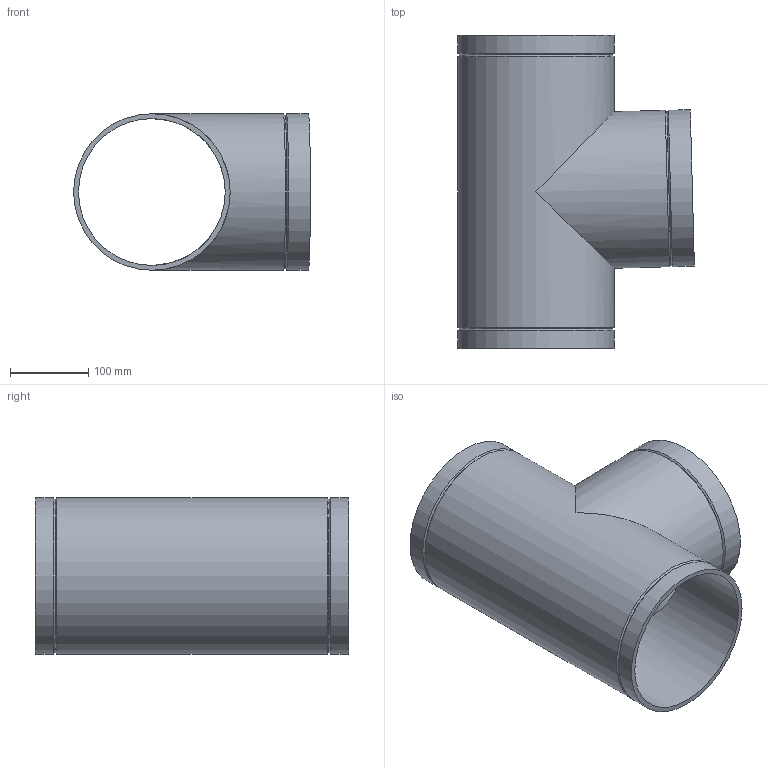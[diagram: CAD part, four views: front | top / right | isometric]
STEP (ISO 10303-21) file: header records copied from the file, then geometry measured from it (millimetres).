
FILE_DESCRIPTION(/* description */ (''),/* implementation_level */ '2;1');
FILE_NAME(/* name */ 'Z:\Geberit\Export\NewStep\370196.stp',/* time_stamp */ '2014-04-02T08:04:04+02:00',/* author */ ('nelson'),/* organization */ (''),/* preprocessor_version */ 'ST-DEVELOPER v15.2',/* originating_system */ 'Autodesk Inventor 2014',/* authorisation */ '');
FILE_SCHEMA (('AUTOMOTIVE_DESIGN { 1 0 10303 214 3 1 1 }'));
Length unit declared in the file: millimetre
Products named in the file (1): 370196
Bounding box: 302.55 x 400 x 200 mm (x, y, z)
Volume: 1791353.4 mm3; surface area: 594510.7 mm2
Topology: 1 solids, 1 shells, 16 faces, 39 edges, 25 vertices
Faces by surface type: cylinder 7, cone 6, plane 3
Full cylindrical faces by diameter (mm): 187.6 x2, 200 x5
Entity records: 399 total; most frequent: DIRECTION 72, CARTESIAN_POINT 55, ORIENTED_EDGE 38, AXIS2_PLACEMENT_3D 36, EDGE_LOOP 34, FACE_BOUND 22, VERTEX_POINT 19, EDGE_CURVE 19
